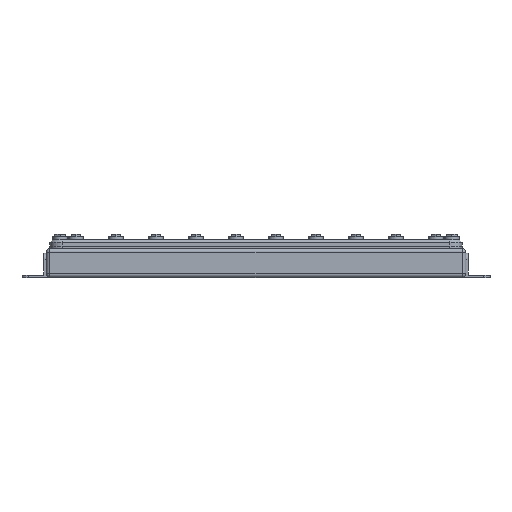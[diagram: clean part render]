
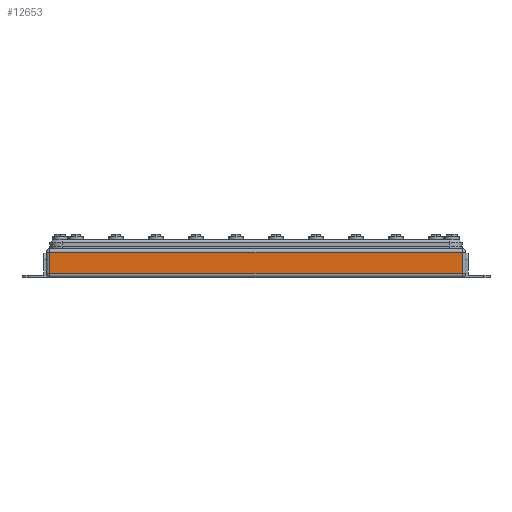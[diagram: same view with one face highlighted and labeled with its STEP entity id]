
A CAD part, left-side view. The second image highlights one B-rep face of the part: STEP entity #12653.
In plain terms, the highlighted planar face has unit normal (-1, 0, 0).
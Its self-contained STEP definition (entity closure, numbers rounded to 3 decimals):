
#167 = FACE_OUTER_BOUND ( 'NONE', #8700, .T. ) ;
#218 = VERTEX_POINT ( 'NONE', #5451 ) ;
#718 = LINE ( 'NONE', #4843, #8356 ) ;
#762 = CARTESIAN_POINT ( 'NONE',  ( -98., -170., 24. ) ) ;
#832 = LINE ( 'NONE', #762, #10337 ) ;
#1117 = CARTESIAN_POINT ( 'NONE',  ( -98., -173., 24. ) ) ;
#1947 = VERTEX_POINT ( 'NONE', #8756 ) ;
#2739 = VECTOR ( 'NONE', #2793, 1000. ) ;
#2793 = DIRECTION ( 'NONE',  ( 0., 0., -1. ) ) ;
#3220 = ORIENTED_EDGE ( 'NONE', *, *, #6007, .T. ) ;
#3288 = DIRECTION ( 'NONE',  ( 0., 0., -1. ) ) ;
#3504 = EDGE_CURVE ( 'NONE', #13429, #218, #718, .T. ) ;
#4081 = VECTOR ( 'NONE', #13376, 1000. ) ;
#4843 = CARTESIAN_POINT ( 'NONE',  ( -98., -173., 21. ) ) ;
#5293 = LINE ( 'NONE', #6193, #4081 ) ;
#5451 = CARTESIAN_POINT ( 'NONE',  ( -98., 170., 21. ) ) ;
#6007 = EDGE_CURVE ( 'NONE', #218, #9295, #8274, .T. ) ;
#6193 = CARTESIAN_POINT ( 'NONE',  ( -98., -173., 3. ) ) ;
#6803 = CARTESIAN_POINT ( 'NONE',  ( -98., 170., 3. ) ) ;
#7235 = ORIENTED_EDGE ( 'NONE', *, *, #11813, .T. ) ;
#8274 = LINE ( 'NONE', #12977, #2739 ) ;
#8356 = VECTOR ( 'NONE', #8998, 1000. ) ;
#8700 = EDGE_LOOP ( 'NONE', ( #7235, #8764, #3220, #9798 ) ) ;
#8756 = CARTESIAN_POINT ( 'NONE',  ( -98., -170., 3. ) ) ;
#8764 = ORIENTED_EDGE ( 'NONE', *, *, #3504, .T. ) ;
#8928 = AXIS2_PLACEMENT_3D ( 'NONE', #1117, #10435, #3288 ) ;
#8998 = DIRECTION ( 'NONE',  ( 0., 1., 0. ) ) ;
#9057 = EDGE_CURVE ( 'NONE', #9295, #1947, #5293, .T. ) ;
#9295 = VERTEX_POINT ( 'NONE', #6803 ) ;
#9617 = PLANE ( 'NONE',  #8928 ) ;
#9798 = ORIENTED_EDGE ( 'NONE', *, *, #9057, .T. ) ;
#10337 = VECTOR ( 'NONE', #12910, 1000. ) ;
#10435 = DIRECTION ( 'NONE',  ( 1., 0., 0. ) ) ;
#11512 = CARTESIAN_POINT ( 'NONE',  ( -98., -170., 21. ) ) ;
#11813 = EDGE_CURVE ( 'NONE', #1947, #13429, #832, .T. ) ;
#12653 = ADVANCED_FACE ( 'NONE', ( #167 ), #9617, .F. ) ;
#12910 = DIRECTION ( 'NONE',  ( 0., 0., 1. ) ) ;
#12977 = CARTESIAN_POINT ( 'NONE',  ( -98., 170., 24. ) ) ;
#13376 = DIRECTION ( 'NONE',  ( 0., -1., 0. ) ) ;
#13429 = VERTEX_POINT ( 'NONE', #11512 ) ;
